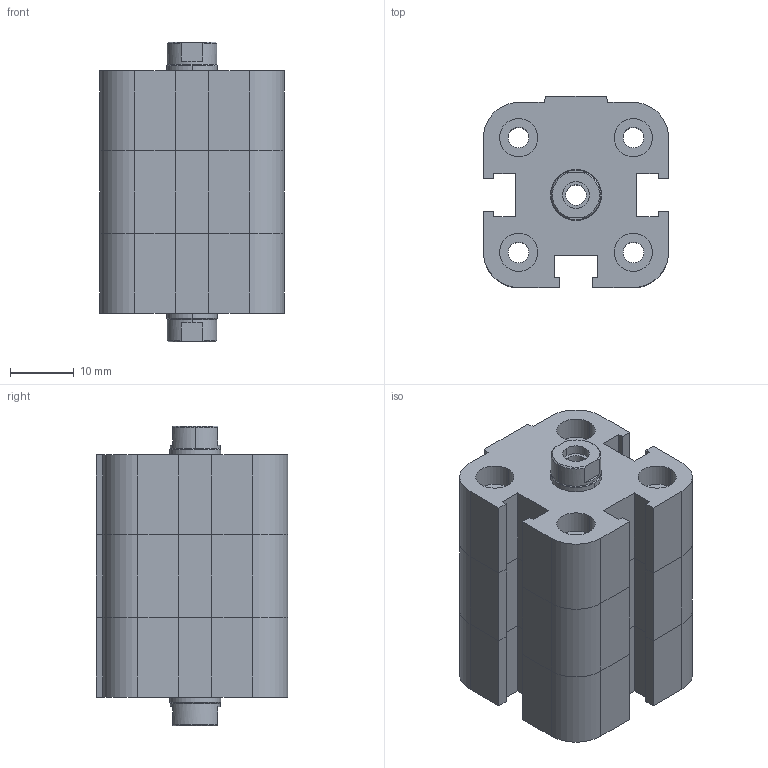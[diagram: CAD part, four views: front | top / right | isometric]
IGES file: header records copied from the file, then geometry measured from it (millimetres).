
Global section: file name: No Iges File Name specified; native system: Autodesk Inventor 2009; preprocessor: AutoDesk Inventor Iges Exporter R2009; author: maffial1; date: 20090420.201142; units: millimetre
Bounding box: 29 x 30 x 47 mm (x, y, z)
Volume: 25818.9 mm3; surface area: 11530.1 mm2
Topology: 2 solids, 2 shells, 188 faces, 432 edges, 262 vertices
Faces by surface type: plane 110, bspline 40, cylinder 18, revolution 12, cone 8
